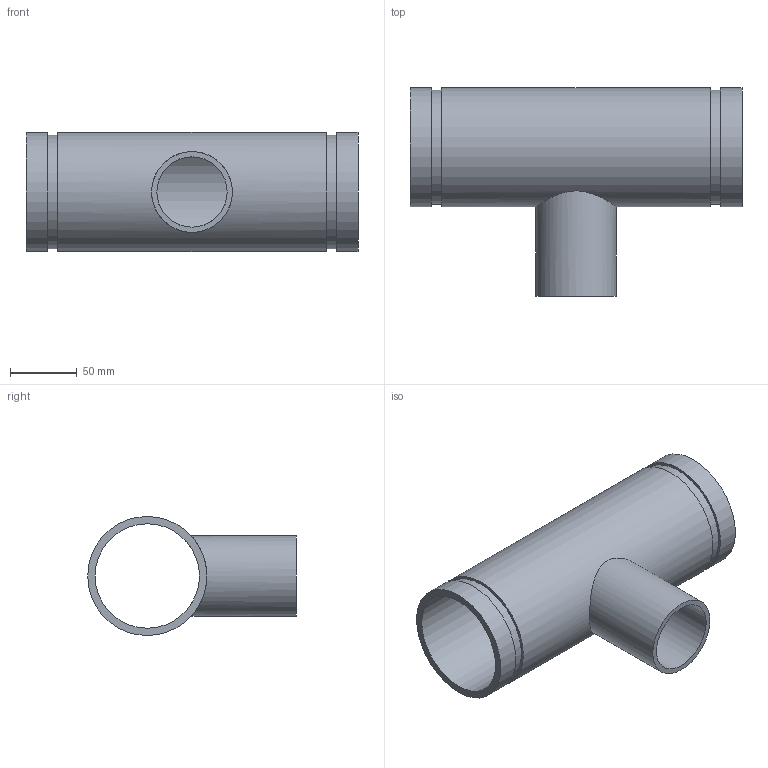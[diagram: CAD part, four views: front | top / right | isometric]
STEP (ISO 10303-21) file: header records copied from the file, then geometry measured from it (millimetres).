
FILE_DESCRIPTION(/* description */ ('VIC REDUCING TEE No 29T FFT (OGSxMPT)','CAx-IF Rec.Pracs.---Representation and Presentation of Product Manufacturing Information (PMI)---4.0---2014-10-13'),/* implementation_level */ '2;1');
FILE_NAME(/* name */ 'C:\Users\kkamble\AppData\Roaming\Autodesk\ApplicationPlugins\Back Up\Victaulic_IPS_Tee Reducing_No 29T FFT (OGSxMPT)\Victaulic_IPS_Tee Reducing_No 29T FFT (OGSxMPT)_03.0x02.0 (80x50).stp',/* time_stamp */ '2020-09-16T22:37:46+05:00',/* author */ ('CORINNE GRAY'),/* organization */ ('Victaulic'),/* preprocessor_version */ 'ST-DEVELOPER v17.2',/* originating_system */ 'Autodesk Inventor 2019',/* authorisation */ '');
FILE_SCHEMA (('AP242_MANAGED_MODEL_BASED_3D_ENGINEERING_MIM_LF { 1 0 10303 442 1 1 4 }'));
Length unit declared in the file: inch
Products named in the file (1): 29 FFT-03.0x02.0
Bounding box: 247.9 x 155.7 x 88.9 mm (x, y, z)
Volume: 384959.7 mm3; surface area: 156552 mm2
Topology: 1 solids, 1 shells, 15 faces, 32 edges, 24 vertices
Faces by surface type: cylinder 8, plane 7
Full cylindrical faces by diameter (mm): 52.502 x1, 60.325 x1, 77.927 x1, 84.938 x2, 88.9 x3
Entity records: 709 total; most frequent: CARTESIAN_POINT 221, DIRECTION 106, ORIENTED_EDGE 64, AXIS2_PLACEMENT_3D 49, EDGE_CURVE 32, EDGE_LOOP 24, VERTEX_POINT 24, CIRCLE 20
